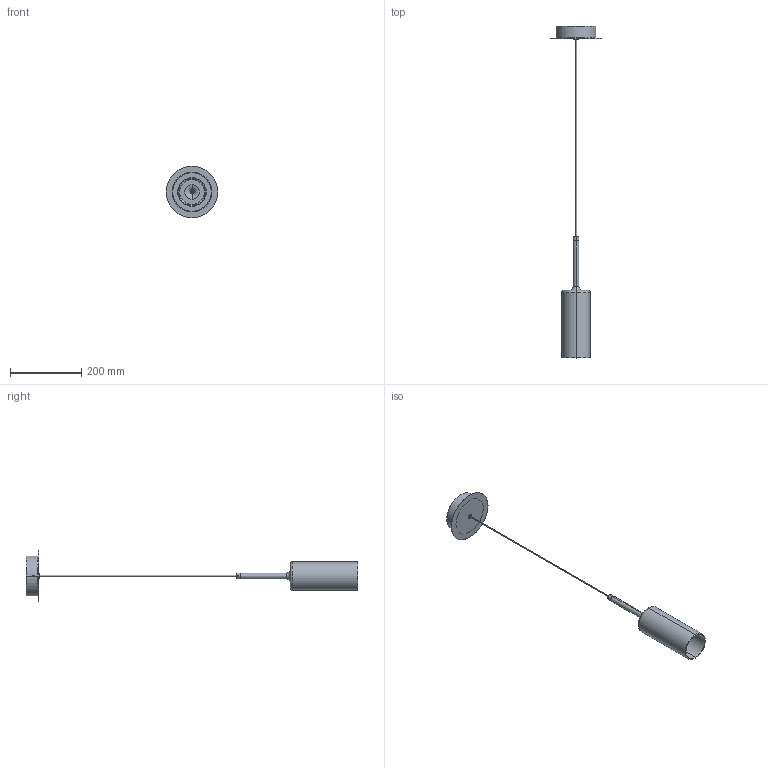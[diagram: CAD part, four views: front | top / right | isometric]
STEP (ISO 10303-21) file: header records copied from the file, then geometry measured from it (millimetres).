
FILE_DESCRIPTION (( 'STEP AP203' ), '1' );
FILE_NAME ('SPSPILP01XXXXXX-PER 3D.STEP', '2025-06-25T16:37:22', ( '' ), ( '' ), 'SwSTEP 2.0', 'SolidWorks 2024', '' );
FILE_SCHEMA (( 'CONFIG_CONTROL_DESIGN' ));
Length unit declared in the file: millimetre
Products named in the file (9): WSCM2C0178-0100-00; VSPILLRAYPCS; WSCM2A0119-0700-00; SPSPILP01XXXXXX-PER 3D; WSASS-000000060-00; WSCM2F0036-0100-00; PENDENTE SPILLRAY EVO P-00; WSM2G1522-FR------; CAVO NL2CN_CAVO NL2CN
Assembly tree (8 placements, depth 3):
  SPSPILP01XXXXXX-PER 3D
    WSASS-000000060-00
      WSCM2C0178-0100-00
      WSCM2F0036-0100-00
      WSM2G1522-FR------
    PENDENTE SPILLRAY EVO P-00
      WSCM2A0119-0700-00
      CAVO NL2CN_CAVO NL2CN
      VSPILLRAYPCS
Bounding box: 145 x 933.49 x 145 mm (x, y, z)
Volume: 193386.7 mm3; surface area: 206841.4 mm2
Topology: 9 solids, 9 shells, 159 faces, 341 edges, 204 vertices
Faces by surface type: cylinder 69, torus 36, plane 32, cone 20, bspline 2
Entity records: 5768 total; most frequent: CARTESIAN_POINT 1235, DIRECTION 857, ORIENTED_EDGE 682, AXIS2_PLACEMENT_3D 374, EDGE_CURVE 341, CIRCLE 204, VERTEX_POINT 204, EDGE_LOOP 179
